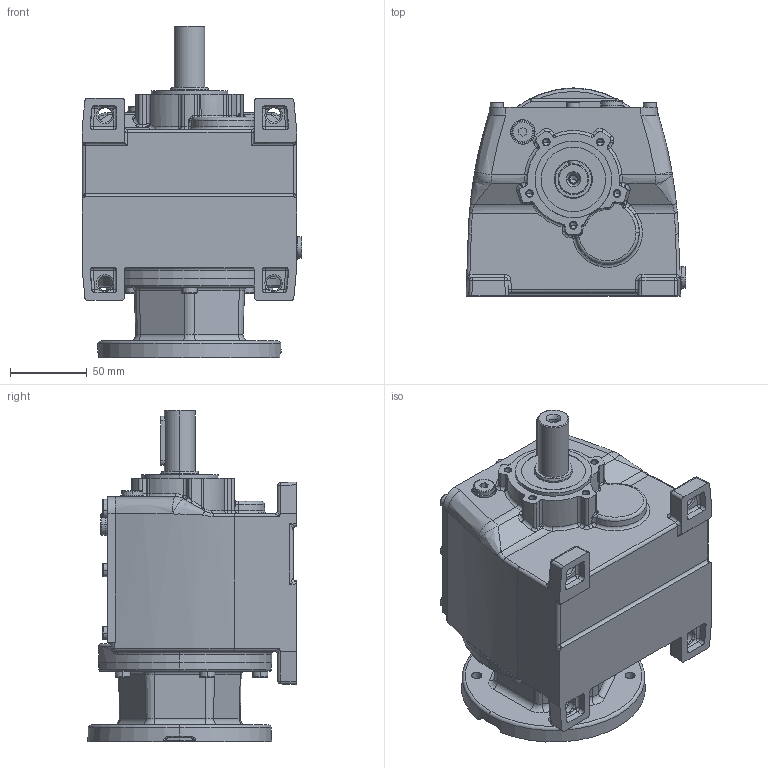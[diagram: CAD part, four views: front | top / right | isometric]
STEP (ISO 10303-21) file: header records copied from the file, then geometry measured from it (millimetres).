
FILE_DESCRIPTION (( 'STEP AP214' ), '1' );
FILE_NAME ('MTC23A-63-100.STEP', '2006-05-03T10:24:30', ( '' ), ( '' ), 'SwSTEP 2.0', 'SolidWorks 2004146', '' );
FILE_SCHEMA (( 'AUTOMOTIVE_DESIGN' ));
Length unit declared in the file: millimetre
Products named in the file (4): Skrin MTC2_A_MTC23_AP63; D6912_Šroub DIN 6912 - M6x20; pøíruba d55 MRT60a_pøíruba 80-100-120; MTC23A-63-100
Assembly tree (8 placements, depth 2):
  MTC23A-63-100
    D6912_Šroub DIN 6912 - M6x20  x6
    pøíruba d55 MRT60a_pøíruba 80-100-120
    Skrin MTC2_A_MTC23_AP63
Bounding box: 143.57 x 136 x 216.5 mm (x, y, z)
Volume: 1974560 mm3; surface area: 150689.8 mm2
Topology: 8 solids, 8 shells, 1412 faces, 3303 edges, 1930 vertices
Faces by surface type: plane 366, torus 366, cylinder 340, cone 214, bspline 100, sphere 26
Entity records: 90428 total; most frequent: CARTESIAN_POINT 58734, DIRECTION 6347, ORIENTED_EDGE 5850, EDGE_CURVE 2925, AXIS2_PLACEMENT_3D 2674, VERTEX_POINT 1772, CIRCLE 1536, EDGE_LOOP 1325
